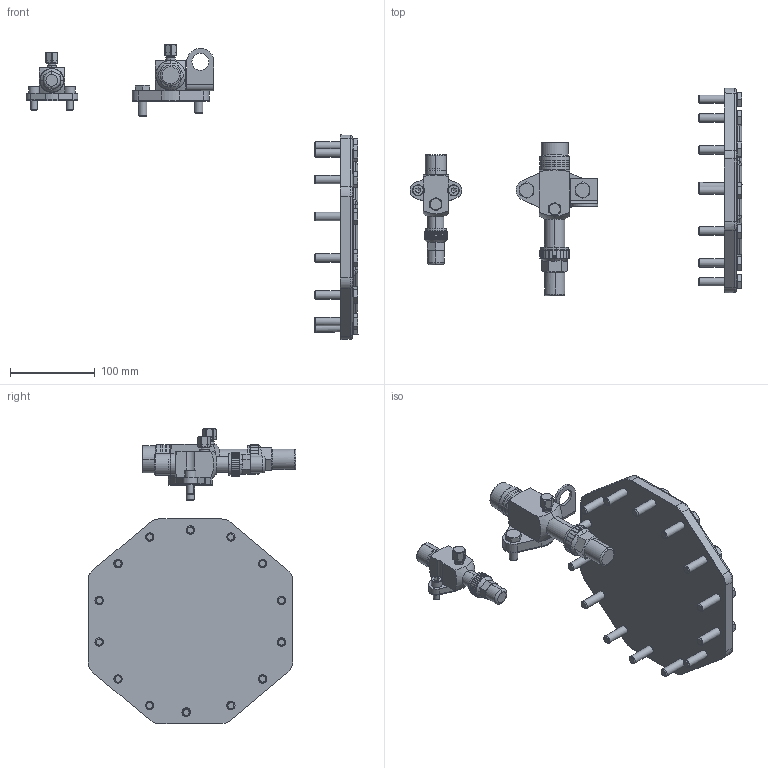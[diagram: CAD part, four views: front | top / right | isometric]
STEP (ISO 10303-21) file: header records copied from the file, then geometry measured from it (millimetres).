
FILE_DESCRIPTION(/* description */ (''),/* implementation_level */ '2;1');
FILE_NAME(/* name */ '4DES5.stp',/* time_stamp */ '2023-10-24T11:56:58+02:00',/* author */ (''),/* organization */ (''),/* preprocessor_version */ 'ST-DEVELOPER v19.3',/* originating_system */ 'SIEMENS PLM Software NX2212.3001',/* authorisation */ '');
FILE_SCHEMA (('AUTOMOTIVE_DESIGN { 1 0 10303 214 3 1 1 1 }'));
Length unit declared in the file: millimetre
Products named in the file (4): SHUT-OFF-VALVE-COMPL-D28L; SHUT-OFF-VALVE-COMPL-D22L; HOUSING-COVER-2EC-4DC; 4DES5
Assembly tree (3 placements, depth 2):
  4DES5
    HOUSING-COVER-2EC-4DC
    SHUT-OFF-VALVE-COMPL-D22L
    SHUT-OFF-VALVE-COMPL-D28L
Bounding box: 391.29 x 245.1 x 347.95 mm (x, y, z)
Volume: 1173959.7 mm3; surface area: 188834.4 mm2
Topology: 3 solids, 3 shells, 1101 faces, 2798 edges, 1778 vertices
Faces by surface type: plane 602, cylinder 237, cone 200, torus 38, bspline 16, sphere 8
Full cylindrical faces by diameter (mm): 7.794 x2, 9 x2, 9.76 x14, 10 x2, 11 x2, 13 x2, 20 x2, 27 x1, 34.5 x1
Entity records: 38615 total; most frequent: CARTESIAN_POINT 6855, ORIENTED_EDGE 5340, DIRECTION 5331, EDGE_CURVE 2670, AXIS2_PLACEMENT_3D 1933, VERTEX_POINT 1745, LINE 1465, VECTOR 1465
